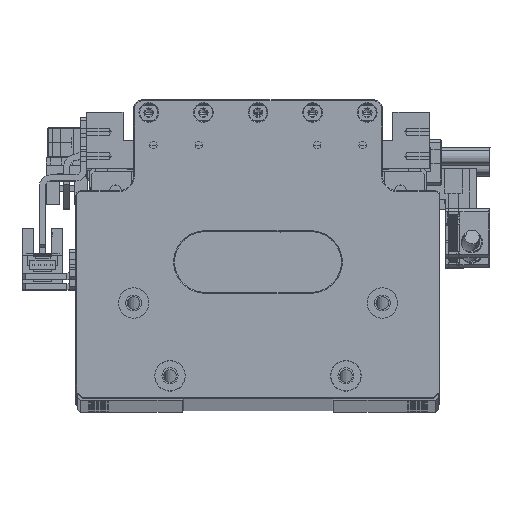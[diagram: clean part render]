
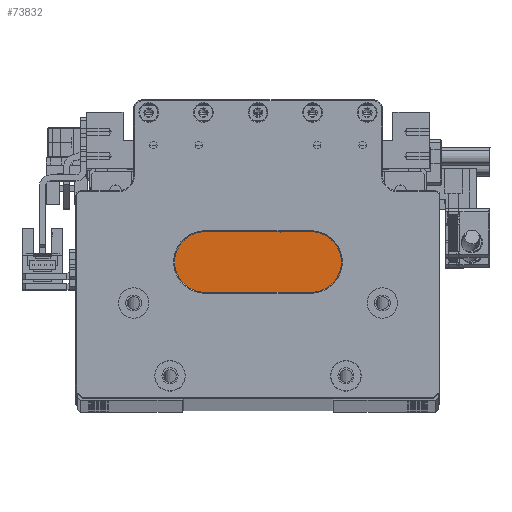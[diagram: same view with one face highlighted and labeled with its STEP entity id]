
A CAD part, top view. The second image highlights one B-rep face of the part: STEP entity #73832.
In plain terms, the highlighted planar face has unit normal (0, 0, 1).
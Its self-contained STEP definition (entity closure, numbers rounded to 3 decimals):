
#2458 = CARTESIAN_POINT ( 'NONE',  ( -23.132, -9.223, 375. ) ) ;
#5522 = LINE ( 'NONE', #95358, #55827 ) ;
#6039 = CARTESIAN_POINT ( 'NONE',  ( -4.632, -17.023, 375. ) ) ;
#6932 = ORIENTED_EDGE ( 'NONE', *, *, #98968, .T. ) ;
#9049 = VECTOR ( 'NONE', #124524, 1000. ) ;
#11242 = VECTOR ( 'NONE', #72185, 1000. ) ;
#12042 = CARTESIAN_POINT ( 'NONE',  ( -12.132, -17.023, 375. ) ) ;
#13247 = ORIENTED_EDGE ( 'NONE', *, *, #18666, .T. ) ;
#13306 = ORIENTED_EDGE ( 'NONE', *, *, #83913, .T. ) ;
#14274 = ORIENTED_EDGE ( 'NONE', *, *, #130819, .T. ) ;
#15362 = LINE ( 'NONE', #94027, #9049 ) ;
#16734 = LINE ( 'NONE', #98136, #43441 ) ;
#17484 = EDGE_LOOP ( 'NONE', ( #120481, #14274 ) ) ;
#18481 = EDGE_CURVE ( 'NONE', #65820, #74483, #29318, .T. ) ;
#18666 = EDGE_CURVE ( 'NONE', #48198, #49482, #16734, .T. ) ;
#18994 = DIRECTION ( 'NONE',  ( 1., 0., 0. ) ) ;
#20191 = VERTEX_POINT ( 'NONE', #99345 ) ;
#20409 = FACE_BOUND ( 'NONE', #17484, .T. ) ;
#21538 = AXIS2_PLACEMENT_3D ( 'NONE', #83788, #23460, #93956 ) ;
#22149 = DIRECTION ( 'NONE',  ( 1., 0., 0. ) ) ;
#23460 = DIRECTION ( 'NONE',  ( 0., 0., -1. ) ) ;
#25849 = VERTEX_POINT ( 'NONE', #121421 ) ;
#26679 = FACE_OUTER_BOUND ( 'NONE', #112929, .T. ) ;
#28099 = CARTESIAN_POINT ( 'NONE',  ( 2.868, -17.023, 375. ) ) ;
#29318 = LINE ( 'NONE', #76065, #56042 ) ;
#29988 = AXIS2_PLACEMENT_3D ( 'NONE', #28099, #98602, #38187 ) ;
#30145 = CARTESIAN_POINT ( 'NONE',  ( -34.432, -17.023, 375. ) ) ;
#32388 = ORIENTED_EDGE ( 'NONE', *, *, #18481, .T. ) ;
#34761 = LINE ( 'NONE', #102688, #11242 ) ;
#34942 = DIRECTION ( 'NONE',  ( 1., 0., 0. ) ) ;
#35725 = EDGE_CURVE ( 'NONE', #20191, #50962, #88212, .T. ) ;
#36714 = DIRECTION ( 'NONE',  ( -1., 0., 0. ) ) ;
#37227 = VERTEX_POINT ( 'NONE', #79580 ) ;
#37941 = EDGE_CURVE ( 'NONE', #49482, #37227, #62667, .T. ) ;
#38187 = DIRECTION ( 'NONE',  ( 1., 0., 0. ) ) ;
#39020 = VECTOR ( 'NONE', #50294, 1000. ) ;
#39975 = DIRECTION ( 'NONE',  ( 0., 1., 0. ) ) ;
#42525 = CARTESIAN_POINT ( 'NONE',  ( 25.168, -17.023, 375. ) ) ;
#43441 = VECTOR ( 'NONE', #108261, 1000. ) ;
#48198 = VERTEX_POINT ( 'NONE', #42525 ) ;
#48397 = DIRECTION ( 'NONE',  ( 0., 0., -1. ) ) ;
#48852 = VECTOR ( 'NONE', #36714, 1000. ) ;
#49482 = VERTEX_POINT ( 'NONE', #85801 ) ;
#50294 = DIRECTION ( 'NONE',  ( 0., 1., 0. ) ) ;
#50330 = AXIS2_PLACEMENT_3D ( 'NONE', #89004, #79295, #18994 ) ;
#50962 = VERTEX_POINT ( 'NONE', #62916 ) ;
#51427 = ORIENTED_EDGE ( 'NONE', *, *, #100907, .T. ) ;
#55827 = VECTOR ( 'NONE', #34942, 1000. ) ;
#56042 = VECTOR ( 'NONE', #126473, 1000. ) ;
#59457 = CARTESIAN_POINT ( 'NONE',  ( -10.882, -17.023, 375. ) ) ;
#60497 = EDGE_CURVE ( 'NONE', #117126, #116027, #34761, .T. ) ;
#62667 = LINE ( 'NONE', #110745, #39020 ) ;
#62916 = CARTESIAN_POINT ( 'NONE',  ( 1.618, -17.023, 375. ) ) ;
#63505 = EDGE_CURVE ( 'NONE', #25849, #48198, #100697, .T. ) ;
#65820 = VERTEX_POINT ( 'NONE', #2458 ) ;
#67900 = VERTEX_POINT ( 'NONE', #121957 ) ;
#70641 = VECTOR ( 'NONE', #39975, 1000. ) ;
#72185 = DIRECTION ( 'NONE',  ( 0., -1., 0. ) ) ;
#73832 = ADVANCED_FACE ( 'NONE', ( #26679, #20409, #73897 ), #129688, .T. ) ;
#73897 = FACE_BOUND ( 'NONE', #111271, .T. ) ;
#74483 = VERTEX_POINT ( 'NONE', #119743 ) ;
#76065 = CARTESIAN_POINT ( 'NONE',  ( -23.132, -9.023, 375. ) ) ;
#76165 = VERTEX_POINT ( 'NONE', #59457 ) ;
#79295 = DIRECTION ( 'NONE',  ( 0., 0., 1. ) ) ;
#79580 = CARTESIAN_POINT ( 'NONE',  ( 13.868, -9.223, 375. ) ) ;
#82069 = EDGE_CURVE ( 'NONE', #76165, #67900, #100960, .T. ) ;
#82457 = DIRECTION ( 'NONE',  ( 0., 0., -1. ) ) ;
#83523 = CIRCLE ( 'NONE', #21538, 1.25 ) ;
#83788 = CARTESIAN_POINT ( 'NONE',  ( 2.868, -17.023, 375. ) ) ;
#83913 = EDGE_CURVE ( 'NONE', #67900, #76165, #89681, .T. ) ;
#85339 = AXIS2_PLACEMENT_3D ( 'NONE', #12042, #82457, #22149 ) ;
#85801 = CARTESIAN_POINT ( 'NONE',  ( 13.868, -17.023, 375. ) ) ;
#88212 = CIRCLE ( 'NONE', #29988, 1.25 ) ;
#89004 = CARTESIAN_POINT ( 'NONE',  ( -4.632, -9.023, 375. ) ) ;
#89681 = CIRCLE ( 'NONE', #85339, 1.25 ) ;
#90241 = CARTESIAN_POINT ( 'NONE',  ( 25.168, -9.023, 375. ) ) ;
#91941 = EDGE_CURVE ( 'NONE', #74483, #117126, #129461, .T. ) ;
#93660 = AXIS2_PLACEMENT_3D ( 'NONE', #108885, #48397, #119007 ) ;
#93956 = DIRECTION ( 'NONE',  ( 1., 0., 0. ) ) ;
#94027 = CARTESIAN_POINT ( 'NONE',  ( -4.632, -9.223, 375. ) ) ;
#95358 = CARTESIAN_POINT ( 'NONE',  ( -34.632, -49.223, 375. ) ) ;
#96449 = ORIENTED_EDGE ( 'NONE', *, *, #82069, .T. ) ;
#98136 = CARTESIAN_POINT ( 'NONE',  ( -4.632, -17.023, 375. ) ) ;
#98602 = DIRECTION ( 'NONE',  ( 0., 0., -1. ) ) ;
#98968 = EDGE_CURVE ( 'NONE', #37227, #65820, #15362, .T. ) ;
#99345 = CARTESIAN_POINT ( 'NONE',  ( 4.118, -17.023, 375. ) ) ;
#100683 = ORIENTED_EDGE ( 'NONE', *, *, #91941, .T. ) ;
#100697 = LINE ( 'NONE', #90241, #70641 ) ;
#100907 = EDGE_CURVE ( 'NONE', #116027, #25849, #5522, .T. ) ;
#100960 = CIRCLE ( 'NONE', #93660, 1.25 ) ;
#101783 = ORIENTED_EDGE ( 'NONE', *, *, #37941, .T. ) ;
#102688 = CARTESIAN_POINT ( 'NONE',  ( -34.432, -9.023, 375. ) ) ;
#108261 = DIRECTION ( 'NONE',  ( -1., 0., 0. ) ) ;
#108885 = CARTESIAN_POINT ( 'NONE',  ( -12.132, -17.023, 375. ) ) ;
#109297 = ORIENTED_EDGE ( 'NONE', *, *, #63505, .T. ) ;
#110745 = CARTESIAN_POINT ( 'NONE',  ( 13.868, -9.023, 375. ) ) ;
#111271 = EDGE_LOOP ( 'NONE', ( #96449, #13306 ) ) ;
#112929 = EDGE_LOOP ( 'NONE', ( #6932, #32388, #100683, #121178, #51427, #109297, #13247, #101783 ) ) ;
#116027 = VERTEX_POINT ( 'NONE', #121268 ) ;
#117126 = VERTEX_POINT ( 'NONE', #30145 ) ;
#119007 = DIRECTION ( 'NONE',  ( 1., 0., 0. ) ) ;
#119743 = CARTESIAN_POINT ( 'NONE',  ( -23.132, -17.023, 375. ) ) ;
#120481 = ORIENTED_EDGE ( 'NONE', *, *, #35725, .T. ) ;
#121178 = ORIENTED_EDGE ( 'NONE', *, *, #60497, .T. ) ;
#121268 = CARTESIAN_POINT ( 'NONE',  ( -34.432, -49.223, 375. ) ) ;
#121421 = CARTESIAN_POINT ( 'NONE',  ( 25.168, -49.223, 375. ) ) ;
#121957 = CARTESIAN_POINT ( 'NONE',  ( -13.382, -17.023, 375. ) ) ;
#124524 = DIRECTION ( 'NONE',  ( -1., 0., 0. ) ) ;
#126473 = DIRECTION ( 'NONE',  ( 0., -1., 0. ) ) ;
#129461 = LINE ( 'NONE', #6039, #48852 ) ;
#129688 = PLANE ( 'NONE',  #50330 ) ;
#130819 = EDGE_CURVE ( 'NONE', #50962, #20191, #83523, .T. ) ;
